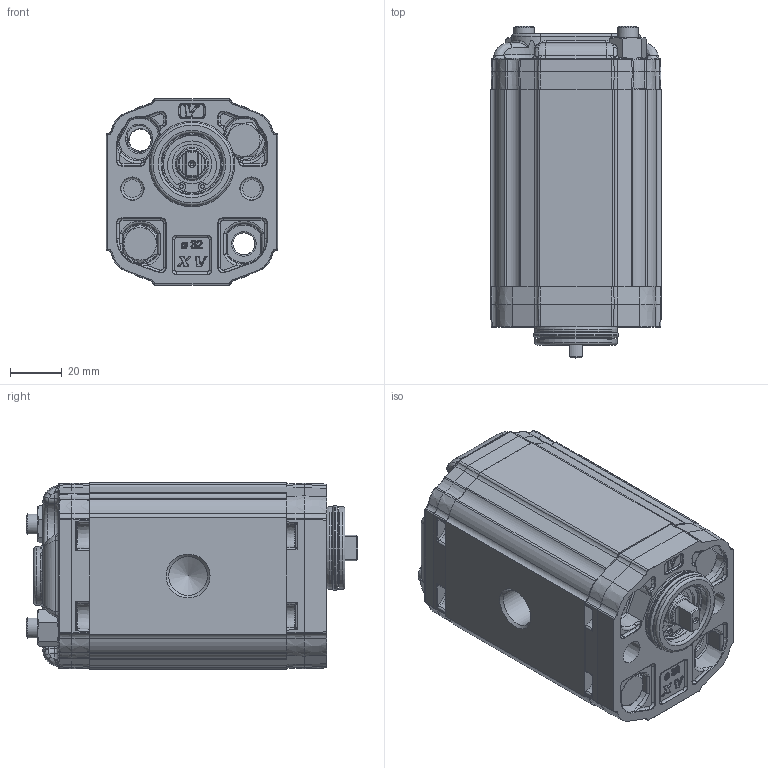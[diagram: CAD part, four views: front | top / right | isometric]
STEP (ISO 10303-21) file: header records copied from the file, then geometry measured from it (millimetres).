
FILE_DESCRIPTION(/* description */ ('Unknown'),/* implementation_level */ '2;1');
FILE_NAME(/* name */ 'X1P3652DBBA',/* time_stamp */ '2026-05-26T18:28:57+02:00',/* author */ ('Unknown'),/* organization */ ('Unknown'),/* preprocessor_version */ 'ST-DEVELOPER v16.7',/* originating_system */ 'Solid Edge',/* authorisation */ 'Unknown');
FILE_SCHEMA (('AUTOMOTIVE_DESIGN {1 0 10303 214 3 1 1}'));
Products named in the file (5): X1P3652DBBA; X1P52; 1D; X1BBH76; XP140-A
Assembly tree (4 placements, depth 2):
  X1P3652DBBA
    X1P52
    1D
    X1BBH76
    XP140-A
Bounding box: 66 x 127.99 x 72 mm (x, y, z)
Volume: 427873.6 mm3; surface area: 74890.2 mm2
Topology: 4 solids, 5 shells, 2558 faces, 6060 edges, 3556 vertices
Faces by surface type: cylinder 761, bspline 645, plane 553, torus 273, cone 241, sphere 85
Full cylindrical faces by diameter (mm): 1.447 x2, 1.5 x1, 8 x6, 8.5 x3, 9 x2, 10 x1, 10.5 x2, 11.965 x1, 12 x3, 12.923 x1, 14.95 x2, 15.115 x1, 15.181 x1, 19 x1, 20 x1, 22 x2, 22.2 x1, 23 x1, 24 x1, 29.4 x2, 32 x1, 32.96 x1
Entity records: 138333 total; most frequent: CARTESIAN_POINT 65514, ORIENTED_EDGE 11688, DIRECTION 10972, EDGE_CURVE 5844, AXIS2_PLACEMENT_3D 4537, VERTEX_POINT 3508, FACE_BOUND 2790, EDGE_LOOP 2786
